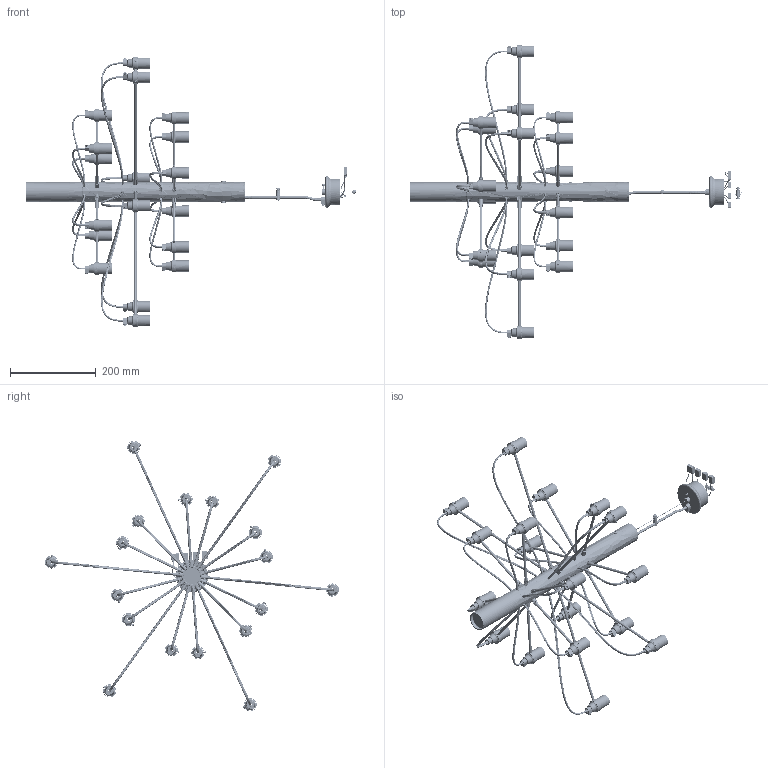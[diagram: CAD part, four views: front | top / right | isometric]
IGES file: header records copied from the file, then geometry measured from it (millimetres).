
Start section: START RECORD GO HERE.
Global section: file name: 173510-ASSIEME 2097-18 EU-SASO-GB.igs; native system: DASSAULT SYSTEMES CATIA Version 5-6 Release 2019 - www.3ds.com; preprocessor: V5-6R2019_5.29.3.0.06-20-2019.20.00; author: AAnelotti; organization: FLOSNET; date: 20191213.172718; units: millimetre
Bounding box: 773.65 x 685.17 x 629.75 mm (x, y, z)
Surface area: 664857.2 mm2 (no closed solid volume)
Topology: 0 solids, 0 shells, 14522 faces, 81605 edges, 81561 vertices
Faces by surface type: bspline 14522
